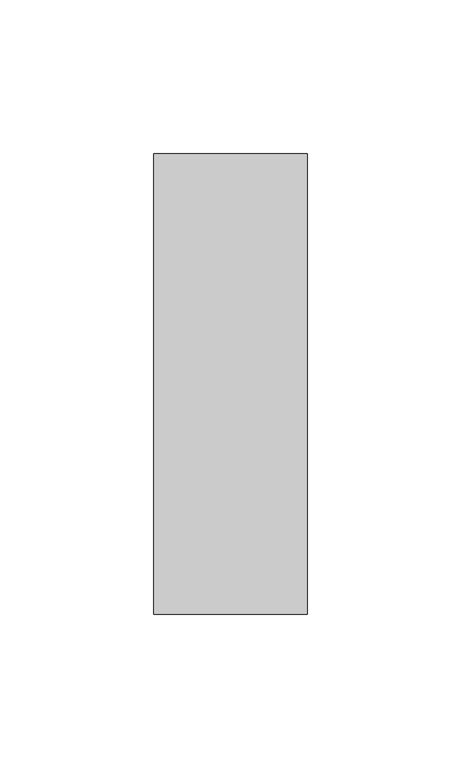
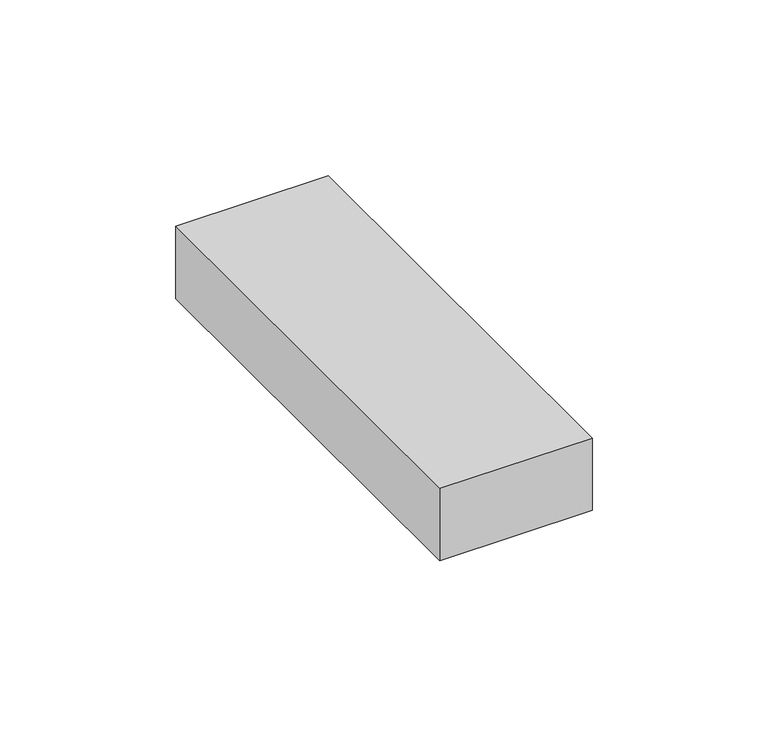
"""IFC4 building model written with IfcOpenShell, lengths in millimetres: member geometry, Прямоугольный импост : 50 x 150 мм."""

import ifcopenshell
import ifcopenshell.guid

model = None  # the IFC model being written
_history = None  # IfcOwnerHistory: only IFC2X3 demands one
_inside = {}  # id of a spatial element -> (the spatial element, [elements in it])
_under = {}  # id of a project, library or spatial element -> (it, [spatial elements below it])
_declared = {}  # id of a project -> (the project, [libraries it declares])
_typed = {}  # id of a type object -> (the type object, [elements of that type])
_made_of = {}  # id of a material, layer set ... -> (it, [elements and type objects made of it])


def new_model(schema):
    """Start an empty IFC model of exactly this schema.

    Asked for "IFC4X3", IfcOpenShell would pick the latest addendum, in which some entities
    have other attributes; the version numbers below select the first issue.
    IFC2X3 requires an IfcOwnerHistory on every rooted entity: one is made here for all.
    """
    global model, _history
    if schema == "IFC4X3":
        model = ifcopenshell.file(schema_version=(4, 3, 0, 0))
    else:
        model = ifcopenshell.file(schema=schema)
    _inside.clear()
    _under.clear()
    _declared.clear()
    _typed.clear()
    _made_of.clear()
    _history = None
    if model.schema == "IFC2X3":
        org = make("IfcOrganization", Name="unknown")
        user = make(
            "IfcPersonAndOrganization",
            ThePerson=make("IfcPerson", FamilyName="unknown"),
            TheOrganization=org,
        )
        app = make(
            "IfcApplication",
            ApplicationDeveloper=org,
            Version="unknown",
            ApplicationFullName="unknown",
            ApplicationIdentifier="unknown",
        )
        _history = make(
            "IfcOwnerHistory",
            OwningUser=user,
            OwningApplication=app,
            ChangeAction="ADDED",
            CreationDate=0,
        )
    return model


def make(cls, **values):
    """One entity of the class cls with the attributes given. An attribute that is None is left unset."""
    return model.create_entity(
        cls, **{name: value for name, value in values.items() if value is not None}
    )


def rooted(cls, **values):
    """An entity with a GlobalId (a new one), such as an element, a storey or a relation."""
    return make(cls, GlobalId=ifcopenshell.guid.new(), OwnerHistory=_history, **values)


def si_unit(unit_type, name, prefix=None):
    """IfcSIUnit, for example si_unit("LENGTHUNIT", "METRE", prefix="MILLI")."""
    return make("IfcSIUnit", UnitType=unit_type, Prefix=prefix, Name=name)


def assignment(units):
    """IfcUnitAssignment: the units of a project."""
    return None if units is None else make("IfcUnitAssignment", Units=units)


def point(xyz):
    """IfcCartesianPoint."""
    return None if xyz is None else make("IfcCartesianPoint", Coordinates=xyz)


def direction(xyz):
    """IfcDirection."""
    return None if xyz is None else make("IfcDirection", DirectionRatios=xyz)


def frame(location, z_axis=None, x_axis=None):
    """IfcAxis2Placement3D, a coordinate frame: its origin and axes. An axis left out is left unset."""
    return make(
        "IfcAxis2Placement3D",
        Location=point(location),
        Axis=direction(z_axis),
        RefDirection=direction(x_axis),
    )


def origin():
    """The frame at (0, 0, 0) with its axes left unset."""
    return frame((0.0, 0.0, 0.0))


def place(relative_to, where):
    """IfcLocalPlacement: puts the frame where relative to a parent placement (None: the world)."""
    return make(
        "IfcLocalPlacement", PlacementRelTo=relative_to, RelativePlacement=where
    )


def context(
    kind, dimensions, precision=None, world=None, true_north=None, identifier=None
):
    """IfcGeometricRepresentationContext, for example the 3D "Model" context."""
    return make(
        "IfcGeometricRepresentationContext",
        ContextIdentifier=identifier,
        ContextType=kind,
        CoordinateSpaceDimension=dimensions,
        Precision=precision,
        WorldCoordinateSystem=world,
        TrueNorth=true_north,
    )


def project(units=None, contexts=None):
    """IfcProject with its units and contexts."""
    return rooted(
        "IfcProject",
        Name="project",
        RepresentationContexts=contexts,
        UnitsInContext=assignment(units),
    )


def spatial(cls, under=None, at=None, **own):
    """A site, building, storey or space (cls), placed at a placement, below another one or the project."""
    s = rooted(cls, ObjectPlacement=at, **own)
    if under is not None:
        _under.setdefault(under.id(), (under, []))[1].append(s)
    return s


def polyline(points):
    """IfcPolyline through the points."""
    return make("IfcPolyline", Points=[point(p) for p in points])


def outline(outer, holes=None, kind="AREA"):
    """IfcArbitraryClosedProfileDef: a profile drawn as a closed curve; with holes, ...WithVoids."""
    if holes is None:
        return make("IfcArbitraryClosedProfileDef", ProfileType=kind, OuterCurve=outer)
    return make(
        "IfcArbitraryProfileDefWithVoids",
        ProfileType=kind,
        OuterCurve=outer,
        InnerCurves=holes,
    )


def extrude(swept, where, along, depth):
    """IfcExtrudedAreaSolid: the profile swept, set in the frame where, extruded along a direction by depth."""
    return make(
        "IfcExtrudedAreaSolid",
        SweptArea=swept,
        Position=where,
        ExtrudedDirection=direction(along),
        Depth=depth,
    )


def shape(context_of_items, identifier, shape_type, items):
    """IfcShapeRepresentation: the items that make up one representation, for example the "Body"."""
    return make(
        "IfcShapeRepresentation",
        ContextOfItems=context_of_items,
        RepresentationIdentifier=identifier,
        RepresentationType=shape_type,
        Items=items,
    )


def source(mapping_origin, context_of_items, identifier, shape_type, items):
    """IfcRepresentationMap: a shape defined once, which mapped items show again and again."""
    return make(
        "IfcRepresentationMap",
        MappingOrigin=mapping_origin,
        MappedRepresentation=shape(context_of_items, identifier, shape_type, items),
    )


def transform(
    local_origin,
    x_axis=None,
    y_axis=None,
    z_axis=None,
    scale=None,
    scale2=None,
    scale3=None,
    uniform=True,
):
    """IfcCartesianTransformationOperator3D, or its non-uniform kind. x_axis, y_axis, z_axis: its Axis1, 2, 3."""
    if uniform:
        return make(
            "IfcCartesianTransformationOperator3D",
            Axis1=direction(x_axis),
            Axis2=direction(y_axis),
            LocalOrigin=point(local_origin),
            Scale=scale,
            Axis3=direction(z_axis),
        )
    return make(
        "IfcCartesianTransformationOperator3DnonUniform",
        Axis1=direction(x_axis),
        Axis2=direction(y_axis),
        LocalOrigin=point(local_origin),
        Scale=scale,
        Axis3=direction(z_axis),
        Scale2=scale2,
        Scale3=scale3,
    )


def mapped(mapping_source, mapping_target):
    """IfcMappedItem: shows the shape of a source again, moved by a transform."""
    return make(
        "IfcMappedItem", MappingSource=mapping_source, MappingTarget=mapping_target
    )


def made_of(thing, what):
    """Note that an element or type object is made of a material, layer set ...; save() writes the relation."""
    if what is not None:
        _made_of.setdefault(what.id(), (what, []))[1].append(thing)
    return thing


def element(
    cls,
    number,
    at=None,
    inside=None,
    cuts=None,
    type_object=None,
    material=None,
    context=None,
    identifier="Body",
    shape_type=None,
    held_by="IfcProductDefinitionShape",
    body=None,
    shapes=None,
    **own,
):
    """One element of the class cls, such as IfcWall. Its Tag is "e" and its number.

    at: its placement. inside: the storey or other place that contains it. cuts: it is an
    opening in that element (IfcRelVoidsElement). A single representation is given by context,
    identifier, shape_type and body (its items); several are given by shapes. held_by: the class
    of the entity that holds the representations. save() writes the other relations.
    """
    e = rooted(cls, Tag="e%d" % number, ObjectPlacement=at, **own)
    if body is not None:
        shapes = [shape(context, identifier, shape_type, body)]
    if shapes is not None:
        e.Representation = make(held_by, Representations=shapes)
    if inside is not None:
        _inside.setdefault(inside.id(), (inside, []))[1].append(e)
    if cuts is not None:
        rooted(
            "IfcRelVoidsElement", RelatingBuildingElement=cuts, RelatedOpeningElement=e
        )
    if type_object is not None:
        _typed.setdefault(type_object.id(), (type_object, []))[1].append(e)
    return made_of(e, material)


def aggregate(whole, parts):
    """IfcRelAggregates: a whole, such as a stair, and the parts it consists of."""
    return rooted("IfcRelAggregates", RelatingObject=whole, RelatedObjects=parts)


def save(model, path):
    """Write the relations noted so far, then the file.

    IfcRelAggregates (storeys below a building ...), IfcRelContainedInSpatialStructure (elements
    in a storey), IfcRelDefinesByType, IfcRelAssociatesMaterial and IfcRelDeclares: one each for
    every whole, place, type object, material and project.
    """
    for whole, parts in _under.values():
        aggregate(whole, parts)
    for where, things in _inside.values():
        rooted(
            "IfcRelContainedInSpatialStructure",
            RelatedElements=things,
            RelatingStructure=where,
        )
    for kind, things in _typed.values():
        rooted("IfcRelDefinesByType", RelatedObjects=things, RelatingType=kind)
    for what, things in _made_of.values():
        rooted("IfcRelAssociatesMaterial", RelatedObjects=things, RelatingMaterial=what)
    for by, libraries in _declared.values():
        rooted("IfcRelDeclares", RelatingContext=by, RelatedDefinitions=libraries)
    model.write(path)


def member_46e55f3a(model_context):
    return source(origin(), model_context, "Body", "SweptSolid", [
        extrude(outline(polyline([(0.0, 75.0), (0.0, -75.0), (-50.0, -75.0), (-50.0, 75.0), (0.0, 75.0)])), frame((0.0, 0.0, -25.0858134), z_axis=(0.0, 0.0, 1.0), x_axis=(1.0, 0.0, 0.0)), (0.0, 0.0, 1.0), 25.0858134),
    ])


if __name__ == "__main__":
    model = new_model("IFC4")
    model_context = context("Model", 3, world=origin())
    ifc_project = project(units=[si_unit("LENGTHUNIT", "METRE", prefix="MILLI")], contexts=[model_context])
    site = spatial("IfcSite", under=ifc_project)
    building = spatial("IfcBuilding", under=site)
    placement = place(None, origin())
    member_shape = member_46e55f3a(model_context)
    element("IfcMember", 1, ObjectType="Прямоугольный импост : 50 x 150 мм", at=placement, inside=building, context=model_context, shape_type="MappedRepresentation", body=[
        mapped(member_shape, transform((0.0, 0.0, 0.0), x_axis=(1.0, 0.0, 0.0), y_axis=(0.0, 1.0, 0.0), z_axis=(0.0, 0.0, 1.0))),
    ])
    save(model, "model.ifc")
